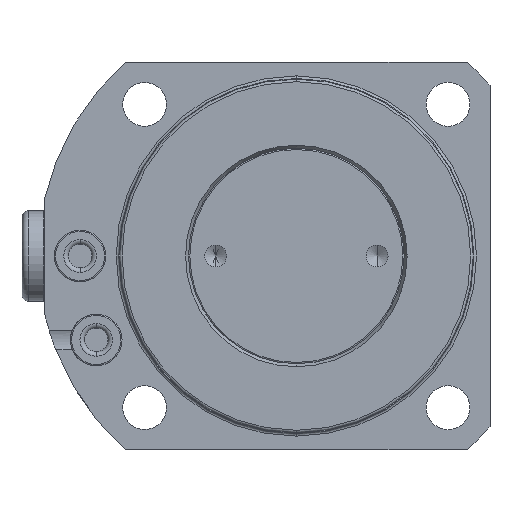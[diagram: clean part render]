
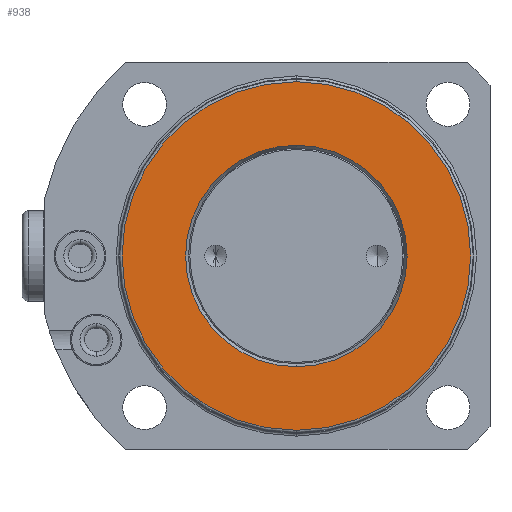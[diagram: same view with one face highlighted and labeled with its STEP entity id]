
A CAD part, front view. The second image highlights one B-rep face of the part: STEP entity #938.
In plain terms, the highlighted planar face has unit normal (0, -1, 0).
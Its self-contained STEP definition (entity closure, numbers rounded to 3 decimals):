
#364=PLANE('',#3908);
#421=FACE_BOUND('',#1425,.T.);
#422=FACE_BOUND('',#1426,.T.);
#938=ADVANCED_FACE('',(#421,#422),#364,.T.);
#1425=EDGE_LOOP('',(#1992,#1993));
#1426=EDGE_LOOP('',(#1994,#1995));
#1992=ORIENTED_EDGE('',*,*,#3087,.T.);
#1993=ORIENTED_EDGE('',*,*,#3155,.T.);
#1994=ORIENTED_EDGE('',*,*,#3082,.F.);
#1995=ORIENTED_EDGE('',*,*,#3156,.F.);
#2732=VERTEX_POINT('',#5994);
#2733=VERTEX_POINT('',#5995);
#2736=VERTEX_POINT('',#6003);
#2737=VERTEX_POINT('',#6005);
#3082=EDGE_CURVE('',#2732,#2733,#3485,.T.);
#3087=EDGE_CURVE('',#2737,#2736,#3489,.T.);
#3155=EDGE_CURVE('',#2736,#2737,#3525,.T.);
#3156=EDGE_CURVE('',#2733,#2732,#3526,.T.);
#3485=CIRCLE('',#3849,27.);
#3489=CIRCLE('',#3854,17.162);
#3525=CIRCLE('',#3905,17.162);
#3526=CIRCLE('',#3907,27.);
#3849=AXIS2_PLACEMENT_3D('',#5993,#4627,#4628);
#3854=AXIS2_PLACEMENT_3D('',#6004,#4638,#4639);
#3905=AXIS2_PLACEMENT_3D('',#6181,#4759,#4760);
#3907=AXIS2_PLACEMENT_3D('',#6183,#4763,#4764);
#3908=AXIS2_PLACEMENT_3D('',#6184,#4765,#4766);
#4627=DIRECTION('',(0.,1.,0.));
#4628=DIRECTION('',(0.,0.,1.));
#4638=DIRECTION('',(0.,1.,0.));
#4639=DIRECTION('',(0.,0.,1.));
#4759=DIRECTION('',(0.,1.,0.));
#4760=DIRECTION('',(0.,0.,1.));
#4763=DIRECTION('',(0.,1.,0.));
#4764=DIRECTION('',(0.,0.,1.));
#4765=DIRECTION('',(0.,-1.,0.));
#4766=DIRECTION('',(0.,0.,1.));
#5993=CARTESIAN_POINT('',(0.,1.087,0.));
#5994=CARTESIAN_POINT('',(0.,1.087,27.));
#5995=CARTESIAN_POINT('',(0.,1.087,-27.));
#6003=CARTESIAN_POINT('',(0.,1.087,17.162));
#6004=CARTESIAN_POINT('',(0.,1.087,0.));
#6005=CARTESIAN_POINT('',(0.,1.087,-17.162));
#6181=CARTESIAN_POINT('',(0.,1.087,0.));
#6183=CARTESIAN_POINT('',(0.,1.087,0.));
#6184=CARTESIAN_POINT('',(0.,1.087,0.));
